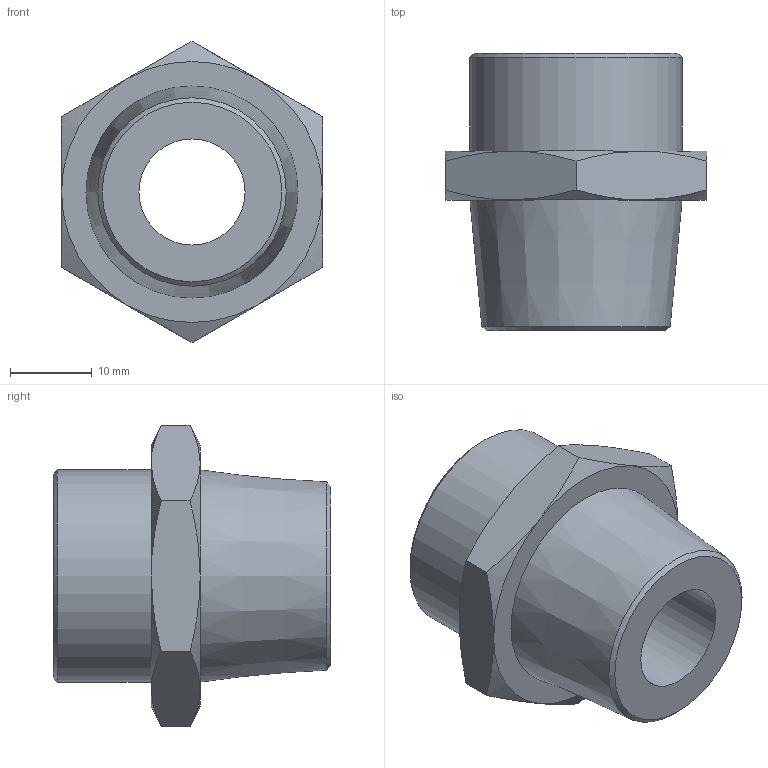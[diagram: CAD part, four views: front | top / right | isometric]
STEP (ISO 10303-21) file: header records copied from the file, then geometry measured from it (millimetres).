
FILE_DESCRIPTION(/* description */ (''),/* implementation_level */ '2;1');
FILE_NAME(/* name */ 'BXH81 B5N5 00.stp',/* time_stamp */ '2024-12-18T18:19:44+01:00',/* author */ ('freju'),/* organization */ (''),/* preprocessor_version */ 'ST-DEVELOPER v20',/* originating_system */ 'Autodesk Inventor 2025',/* authorisation */ '');
FILE_SCHEMA (('AUTOMOTIVE_DESIGN { 1 0 10303 214 3 1 1 }'));
Length unit declared in the file: millimetre
Products named in the file (1): BXH81 B5N5 00
Bounding box: 32 x 34 x 36.95 mm (x, y, z)
Volume: 14650.9 mm3; surface area: 5545.4 mm2
Topology: 1 solids, 1 shells, 27 faces, 57 edges, 34 vertices
Faces by surface type: cone 15, plane 10, cylinder 2
Full cylindrical faces by diameter (mm): 13 x1, 26 x1
Entity records: 740 total; most frequent: CARTESIAN_POINT 167, ORIENTED_EDGE 114, DIRECTION 111, EDGE_CURVE 57, AXIS2_PLACEMENT_3D 50, VERTEX_POINT 34, EDGE_LOOP 31, FACE_OUTER_BOUND 27
